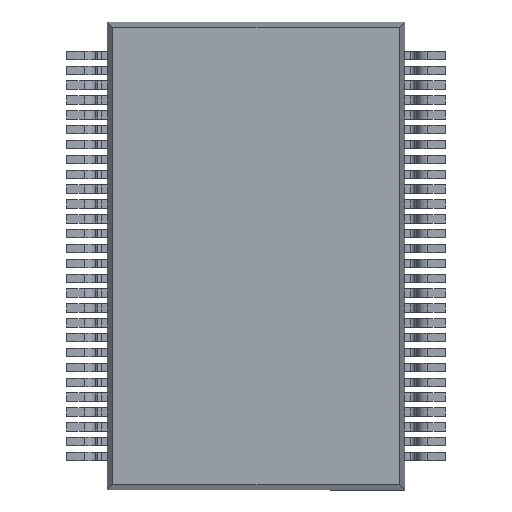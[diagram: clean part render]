
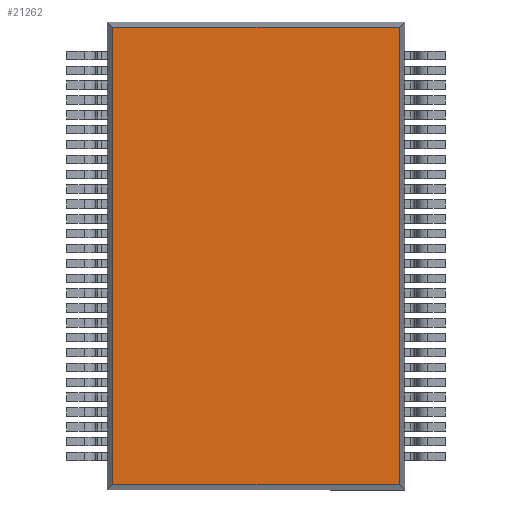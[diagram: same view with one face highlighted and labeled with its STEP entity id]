
A CAD part, front view. The second image highlights one B-rep face of the part: STEP entity #21262.
In plain terms, the highlighted planar face has unit normal (0, -1, 0).
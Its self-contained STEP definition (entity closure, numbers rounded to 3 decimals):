
#1424 = PLANE ( 'NONE',  #1923 ) ;
#1425 = CARTESIAN_POINT ( 'NONE',  ( 0., 0.1, 0. ) ) ;
#1430 = DIRECTION ( 'NONE',  ( 0., 1., 0. ) ) ;
#1431 = DIRECTION ( 'NONE',  ( 0., 0., 1. ) ) ;
#1923 = AXIS2_PLACEMENT_3D ( 'NONE', #1425, #1430, #1431 ) ;
#3432 = FACE_OUTER_BOUND ( 'NONE', #32413, .T. ) ;
#13310 = LINE ( 'NONE', #14462, #13361 ) ;
#13361 = VECTOR ( 'NONE', #14518, 1000. ) ;
#13372 = LINE ( 'NONE', #14519, #13377 ) ;
#13377 = VECTOR ( 'NONE', #14534, 1000. ) ;
#13786 = LINE ( 'NONE', #14985, #13789 ) ;
#13788 = LINE ( 'NONE', #14987, #13791 ) ;
#13789 = VECTOR ( 'NONE', #14986, 1000. ) ;
#13791 = VECTOR ( 'NONE', #14988, 1000. ) ;
#14462 = CARTESIAN_POINT ( 'NONE',  ( -3.859, 0.1, 6.3 ) ) ;
#14518 = DIRECTION ( 'NONE',  ( 0., 0., -1. ) ) ;
#14519 = CARTESIAN_POINT ( 'NONE',  ( 3.859, 0.1, 6.3 ) ) ;
#14534 = DIRECTION ( 'NONE',  ( 0., 0., 1. ) ) ;
#14985 = CARTESIAN_POINT ( 'NONE',  ( 4., 0.1, -6.159 ) ) ;
#14986 = DIRECTION ( 'NONE',  ( 1., 0., 0. ) ) ;
#14987 = CARTESIAN_POINT ( 'NONE',  ( 4., 0.1, 6.159 ) ) ;
#14988 = DIRECTION ( 'NONE',  ( -1., 0., 0. ) ) ;
#19256 = CARTESIAN_POINT ( 'NONE',  ( -3.859, 0.1, 6.159 ) ) ;
#19259 = CARTESIAN_POINT ( 'NONE',  ( -3.859, 0.1, -6.159 ) ) ;
#19263 = CARTESIAN_POINT ( 'NONE',  ( 3.859, 0.1, 6.159 ) ) ;
#19264 = CARTESIAN_POINT ( 'NONE',  ( 3.859, 0.1, -6.159 ) ) ;
#21262 = ADVANCED_FACE ( 'NONE', ( #3432 ), #1424, .F. ) ;
#22621 = EDGE_CURVE ( 'NONE', #31691, #31694, #13310, .T. ) ;
#22629 = EDGE_CURVE ( 'NONE', #31699, #31698, #13372, .T. ) ;
#22845 = EDGE_CURVE ( 'NONE', #31694, #31699, #13786, .T. ) ;
#22846 = EDGE_CURVE ( 'NONE', #31698, #31691, #13788, .T. ) ;
#27105 = ORIENTED_EDGE ( 'NONE', *, *, #22621, .T. ) ;
#27106 = ORIENTED_EDGE ( 'NONE', *, *, #22845, .T. ) ;
#27107 = ORIENTED_EDGE ( 'NONE', *, *, #22629, .T. ) ;
#27108 = ORIENTED_EDGE ( 'NONE', *, *, #22846, .T. ) ;
#31691 = VERTEX_POINT ( 'NONE', #19256 ) ;
#31694 = VERTEX_POINT ( 'NONE', #19259 ) ;
#31698 = VERTEX_POINT ( 'NONE', #19263 ) ;
#31699 = VERTEX_POINT ( 'NONE', #19264 ) ;
#32413 = EDGE_LOOP ( 'NONE', ( #27105, #27106, #27107, #27108 ) ) ;
